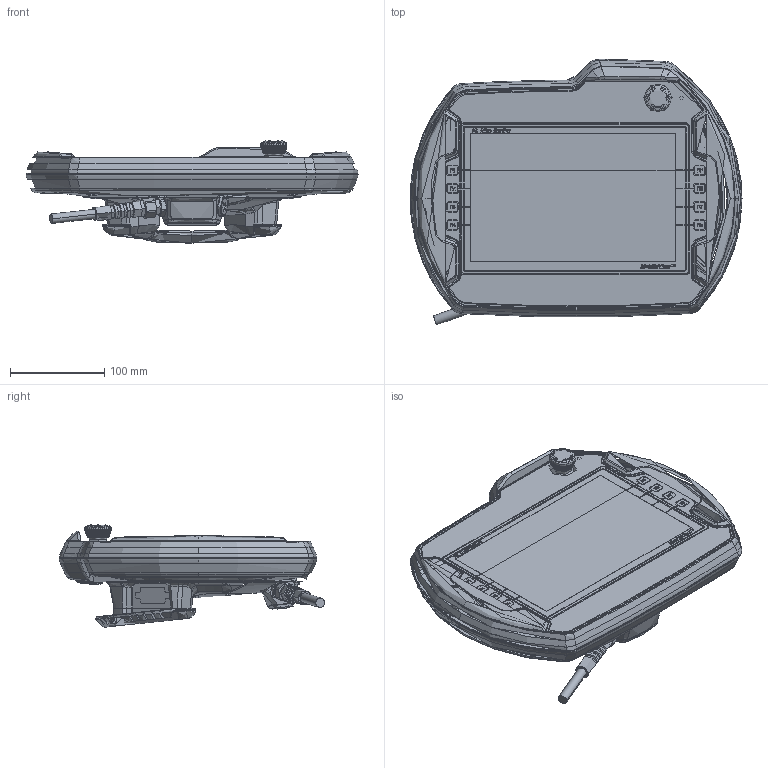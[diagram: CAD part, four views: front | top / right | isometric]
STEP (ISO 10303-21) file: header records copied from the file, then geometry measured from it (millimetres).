
FILE_DESCRIPTION((''),'2;1');
FILE_NAME('10003487362','2017-10-31T',('RMookhe'),('Rockwell Automation'),'PRO/ENGINEER BY PARAMETRIC TECHNOLOGY CORPORATION, 2012480','PRO/ENGINEER BY PARAMETRIC TECHNOLOGY CORPORATION, 2012480','');
FILE_SCHEMA(('CONFIG_CONTROL_DESIGN'));
Products named in the file (1): 10003487362
Bounding box: 353 x 282.06 x 108.84 mm (x, y, z)
Topology: 2 solids, 221 shells, 3625 faces, 12699 edges, 8698 vertices
Faces by surface type: plane 1264, cylinder 763, bspline 624, torus 391, cone 342, extrusion 182, sphere 37, revolution 22
Entity records: 200416 total; most frequent: CARTESIAN_POINT 106047, ORIENTED_EDGE 19957, DIRECTION 15311, EDGE_CURVE 12681, VERTEX_POINT 8698, B_SPLINE_CURVE_WITH_KNOTS 6005, AXIS2_PLACEMENT_3D 5429, VECTOR 4431
